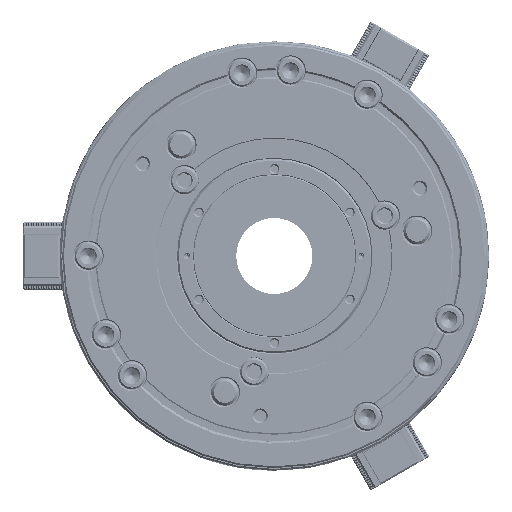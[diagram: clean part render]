
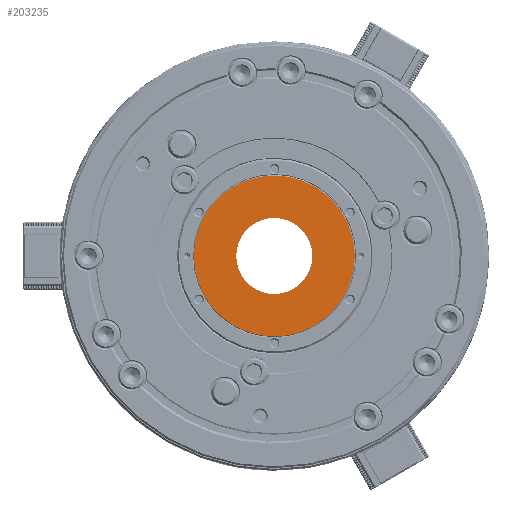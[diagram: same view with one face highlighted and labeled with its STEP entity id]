
A CAD part, left-side view. The second image highlights one B-rep face of the part: STEP entity #203235.
In plain terms, the highlighted planar face has unit normal (-1, 0, 0).
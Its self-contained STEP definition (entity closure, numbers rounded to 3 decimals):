
#1831 = VERTEX_POINT ( 'NONE', #94029 ) ;
#18588 = FACE_BOUND ( 'NONE', #199209, .T. ) ;
#20316 = DIRECTION ( 'NONE',  ( -1., 0., 0. ) ) ;
#21728 = ORIENTED_EDGE ( 'NONE', *, *, #146655, .T. ) ;
#25274 = CIRCLE ( 'NONE', #189555, 22.5 ) ;
#28848 = CIRCLE ( 'NONE', #214956, 47.6 ) ;
#33713 = VERTEX_POINT ( 'NONE', #62113 ) ;
#50741 = DIRECTION ( 'NONE',  ( -1., 0., 0. ) ) ;
#56208 = CIRCLE ( 'NONE', #172957, 22.5 ) ;
#58506 = VERTEX_POINT ( 'NONE', #176289 ) ;
#59202 = ORIENTED_EDGE ( 'NONE', *, *, #204441, .F. ) ;
#59762 = AXIS2_PLACEMENT_3D ( 'NONE', #194494, #121439, #88284 ) ;
#62113 = CARTESIAN_POINT ( 'NONE',  ( -44., 0., -47.6 ) ) ;
#71774 = CARTESIAN_POINT ( 'NONE',  ( -44., 0., 0. ) ) ;
#73301 = DIRECTION ( 'NONE',  ( 0., 0., 1. ) ) ;
#79480 = DIRECTION ( 'NONE',  ( 0., 0., 1. ) ) ;
#88284 = DIRECTION ( 'NONE',  ( 0., 0., -1. ) ) ;
#94029 = CARTESIAN_POINT ( 'NONE',  ( -44., 0., 47.6 ) ) ;
#116002 = CARTESIAN_POINT ( 'NONE',  ( -44., 0., 0. ) ) ;
#121439 = DIRECTION ( 'NONE',  ( 1., 0., 0. ) ) ;
#121507 = CARTESIAN_POINT ( 'NONE',  ( -44., 0., 0. ) ) ;
#123687 = PLANE ( 'NONE',  #59762 ) ;
#125823 = DIRECTION ( 'NONE',  ( -1., 0., 0. ) ) ;
#132011 = DIRECTION ( 'NONE',  ( -1., 0., 0. ) ) ;
#135144 = ORIENTED_EDGE ( 'NONE', *, *, #216627, .F. ) ;
#139613 = CARTESIAN_POINT ( 'NONE',  ( -44., 0., 0. ) ) ;
#146655 = EDGE_CURVE ( 'NONE', #1831, #33713, #28848, .T. ) ;
#156125 = EDGE_LOOP ( 'NONE', ( #160126, #21728 ) ) ;
#157933 = FACE_OUTER_BOUND ( 'NONE', #156125, .T. ) ;
#160126 = ORIENTED_EDGE ( 'NONE', *, *, #225109, .T. ) ;
#170043 = VERTEX_POINT ( 'NONE', #205361 ) ;
#172957 = AXIS2_PLACEMENT_3D ( 'NONE', #71774, #20316, #207790 ) ;
#176289 = CARTESIAN_POINT ( 'NONE',  ( -44., 0., -22.5 ) ) ;
#189555 = AXIS2_PLACEMENT_3D ( 'NONE', #121507, #50741, #191206 ) ;
#191206 = DIRECTION ( 'NONE',  ( 0., 0., 1. ) ) ;
#194494 = CARTESIAN_POINT ( 'NONE',  ( -44., 47.6, 0. ) ) ;
#197932 = CIRCLE ( 'NONE', #205296, 47.6 ) ;
#199209 = EDGE_LOOP ( 'NONE', ( #135144, #59202 ) ) ;
#203235 = ADVANCED_FACE ( 'NONE', ( #18588, #157933 ), #123687, .F. ) ;
#204441 = EDGE_CURVE ( 'NONE', #58506, #170043, #56208, .T. ) ;
#205296 = AXIS2_PLACEMENT_3D ( 'NONE', #116002, #132011, #79480 ) ;
#205361 = CARTESIAN_POINT ( 'NONE',  ( -44., 0., 22.5 ) ) ;
#207790 = DIRECTION ( 'NONE',  ( 0., 0., 1. ) ) ;
#214956 = AXIS2_PLACEMENT_3D ( 'NONE', #139613, #125823, #73301 ) ;
#216627 = EDGE_CURVE ( 'NONE', #170043, #58506, #25274, .T. ) ;
#225109 = EDGE_CURVE ( 'NONE', #33713, #1831, #197932, .T. ) ;
